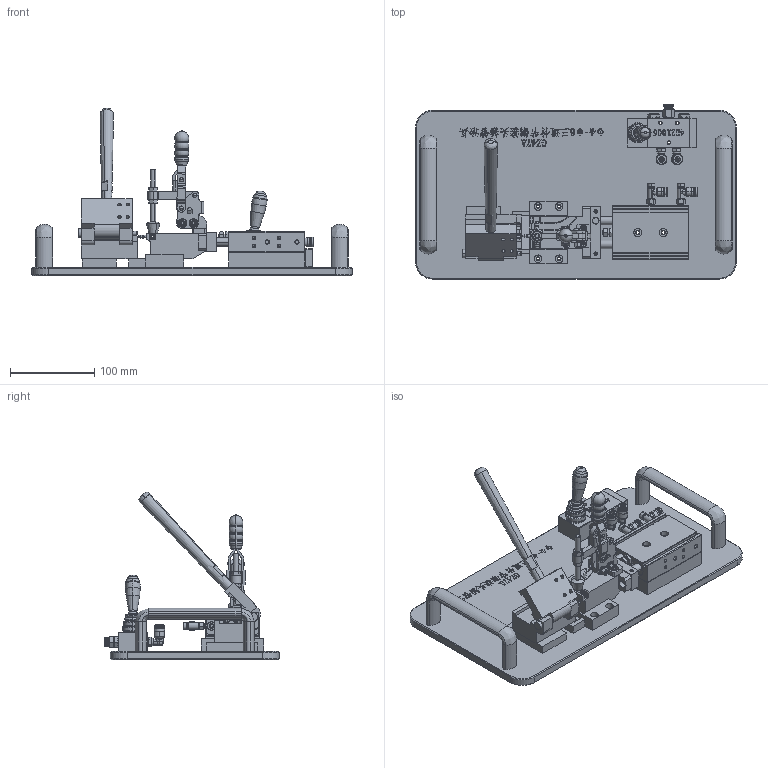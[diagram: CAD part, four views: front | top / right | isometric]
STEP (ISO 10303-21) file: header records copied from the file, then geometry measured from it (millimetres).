
FILE_DESCRIPTION (( 'STEP AP214' ), '1' );
FILE_NAME ('GZ47A.00_V1 φ4-φ6三通竹节铜接头插管治具.STEP', '2021-07-01T02:28:12', ( '微软中国' ), ( 'Microsoft' ), 'SwSTEP 2.0', 'SolidWorks 2017', '' );
FILE_SCHEMA (( 'AUTOMOTIVE_DESIGN' ));
Length unit declared in the file: millimetre
Products named in the file (32): 盓傅啣; MC6-62; 狟揤輸; MC04_2S_MC04-2S; 賑雄菁釱; MC04_2Shandle; ァ詰菜輸; MC04_28; 菁釱-V02; MC04_2_body; 絳砃輸; MC04_2S_plate; 菁釱; XAG24-A20-L128; TR20X15S; GZ47A.00_V1 φ4-φ6三通竹节铜接头插管治具; PTL6M5A-M; 种粣; PL601; PC601; BSLM01; 忒梟; 4H21006; GB／T70．2-2000内六角平圆头螺钉M5×20; 嘐隅釱_耳4脣奪; GB／T6170-20001型六角螺母A级和B级M5; φ4-φ6三通竹节铜接头; GB／T93-1987标准型弹性垫圈(装配)5×1．3; 嘐隅釱; GB／T97．1-2002平垫圈A级5×1; 奻揤輸; 紵標假蚾釱
Assembly tree (40 placements, depth 3):
  GZ47A.00_V1 φ4-φ6三通竹节铜接头插管治具
    菁釱
    絳砃輸  x2
    菁釱-V02
    ァ詰菜輸
    賑雄菁釱
    狟揤輸
    盓傅啣
    奻揤輸
    嘐隅釱_耳4脣奪
      嘐隅釱
      φ4-φ6三通竹节铜接头
    4H21006
    忒梟
    BSLM01  x2
    PC601
    PL601  x2
    种粣
    PTL6M5A-M  x2
    TR20X15S
    XAG24-A20-L128  x2
    MC04_2S_MC04-2S
      MC04_2S_plate
      MC04_2_body
      MC04_28
      MC04_2Shandle
    MC6-62
    紵標假蚾釱
    GB／T97．1-2002平垫圈A级5×1  x2
    GB／T93-1987标准型弹性垫圈(装配)5×1．3  x2
    GB／T6170-20001型六角螺母A级和B级M5  x2
    GB／T70．2-2000内六角平圆头螺钉M5×20  x2
Bounding box: 380 x 206.25 x 198.52 mm (x, y, z)
Volume: 1450048.2 mm3; surface area: 377219 mm2
Topology: 42 solids, 42 shells, 2873 faces, 7176 edges, 4526 vertices
Faces by surface type: plane 1200, cylinder 652, cone 500, bspline 457, torus 60, sphere 4
Entity records: 115446 total; most frequent: CARTESIAN_POINT 35850, ORIENTED_EDGE 12566, DIRECTION 11148, EDGE_CURVE 6283, VERTEX_POINT 4038, AXIS2_PLACEMENT_3D 3790, VECTOR 3568, LINE 3568
